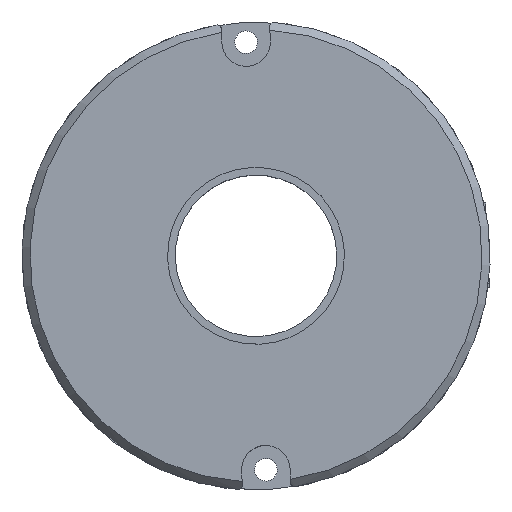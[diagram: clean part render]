
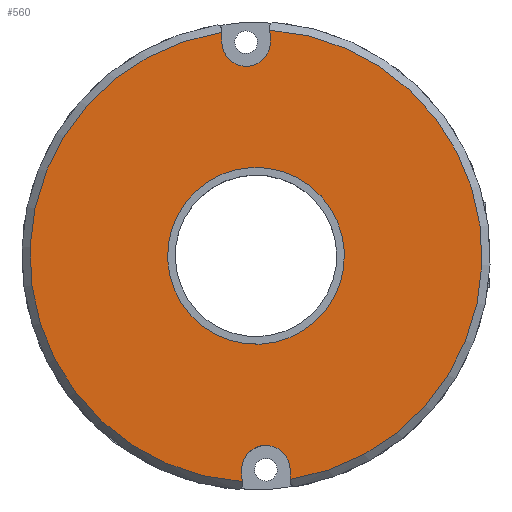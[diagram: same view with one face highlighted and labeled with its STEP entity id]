
A CAD part, top view. The second image highlights one B-rep face of the part: STEP entity #560.
In plain terms, the highlighted planar face has unit normal (0, 0, 1) as drawn and (0, 0, -1) by its records, which use the part's own axes.
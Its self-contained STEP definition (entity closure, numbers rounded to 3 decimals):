
#560=ADVANCED_FACE('',(#3530,#3532),#3534,.T.);
#3530=FACE_BOUND('',#3531,.T.);
#3531=EDGE_LOOP('',(#5911,#5912,#5913,#5914,#5915,#5916,#5917,#5918));
#3532=FACE_BOUND('',#3533,.T.);
#3533=EDGE_LOOP('',(#5919));
#3534=PLANE('',#3535);
#3535=AXIS2_PLACEMENT_3D('',#3536,#3537,#3538);
#3536=CARTESIAN_POINT('',(28.284,-3.5,-3.9));
#3537=DIRECTION('',(0.,0.,-1.));
#3538=DIRECTION('',(1.,0.,0.));
#5911=ORIENTED_EDGE('',*,*,#7669,.T.);
#5912=ORIENTED_EDGE('',*,*,#7617,.T.);
#5913=ORIENTED_EDGE('',*,*,#7670,.T.);
#5914=ORIENTED_EDGE('',*,*,#7671,.T.);
#5915=ORIENTED_EDGE('',*,*,#7672,.T.);
#5916=ORIENTED_EDGE('',*,*,#7673,.T.);
#5917=ORIENTED_EDGE('',*,*,#7626,.T.);
#5918=ORIENTED_EDGE('',*,*,#7632,.T.);
#5919=ORIENTED_EDGE('',*,*,#7649,.F.);
#7617=EDGE_CURVE('',#8512,#8510,#8513,.T.);
#7626=EDGE_CURVE('',#8528,#8529,#8530,.T.);
#7632=EDGE_CURVE('',#8529,#8538,#8541,.T.);
#7649=EDGE_CURVE('',#8571,#8571,#8572,.T.);
#7669=EDGE_CURVE('',#8538,#8512,#8604,.T.);
#7670=EDGE_CURVE('',#8510,#8605,#8606,.T.);
#7671=EDGE_CURVE('',#8605,#8607,#8608,.T.);
#7672=EDGE_CURVE('',#8607,#8609,#8610,.T.);
#7673=EDGE_CURVE('',#8609,#8528,#8611,.T.);
#8510=VERTEX_POINT('',#10056);
#8512=VERTEX_POINT('',#10063);
#8513=CIRCLE('',#10064,28.);
#8528=VERTEX_POINT('',#10151);
#8529=VERTEX_POINT('',#10152);
#8530=LINE('',#10153,#10154);
#8538=VERTEX_POINT('',#10174);
#8541=CIRCLE('',#10179,3.);
#8571=VERTEX_POINT('',#10256);
#8572=CIRCLE('',#10257,10.95);
#8604=LINE('',#10338,#10339);
#8605=VERTEX_POINT('',#10341);
#8606=LINE('',#10342,#10343);
#8607=VERTEX_POINT('',#10345);
#8608=CIRCLE('',#10346,3.);
#8609=VERTEX_POINT('',#10350);
#8610=LINE('',#10351,#10352);
#8611=CIRCLE('',#10354,28.);
#10056=CARTESIAN_POINT('',(27.839,3.,-3.9));
#10063=CARTESIAN_POINT('',(-27.839,3.,-3.9));
#10064=AXIS2_PLACEMENT_3D('',#10065,#10066,#10067);
#10065=CARTESIAN_POINT('',(0.,0.,-3.9));
#10066=DIRECTION('',(0.,0.,-1.));
#10067=DIRECTION('',(-0.994,0.107,0.));
#10151=CARTESIAN_POINT('',(-27.839,-3.,-3.9));
#10152=CARTESIAN_POINT('',(-26.5,-3.,-3.9));
#10153=CARTESIAN_POINT('',(-27.839,-3.,-3.9));
#10154=VECTOR('',#10155,1.);
#10155=DIRECTION('',(1.,0.,0.));
#10174=CARTESIAN_POINT('',(-26.5,3.,-3.9));
#10179=AXIS2_PLACEMENT_3D('',#10180,#10181,#10182);
#10180=CARTESIAN_POINT('',(-26.5,0.,-3.9));
#10181=DIRECTION('',(0.,0.,1.));
#10182=DIRECTION('',(0.,-1.,0.));
#10256=CARTESIAN_POINT('',(10.95,0.,-3.9));
#10257=AXIS2_PLACEMENT_3D('',#10258,#10259,#10260);
#10258=CARTESIAN_POINT('',(0.,0.,-3.9));
#10259=DIRECTION('',(0.,0.,-1.));
#10260=DIRECTION('',(1.,0.,0.));
#10338=CARTESIAN_POINT('',(-26.5,3.,-3.9));
#10339=VECTOR('',#10340,1.);
#10340=DIRECTION('',(-1.,0.,0.));
#10341=CARTESIAN_POINT('',(26.5,3.,-3.9));
#10342=CARTESIAN_POINT('',(27.839,3.,-3.9));
#10343=VECTOR('',#10344,1.);
#10344=DIRECTION('',(-1.,0.,0.));
#10345=CARTESIAN_POINT('',(26.5,-3.,-3.9));
#10346=AXIS2_PLACEMENT_3D('',#10347,#10348,#10349);
#10347=CARTESIAN_POINT('',(26.5,0.,-3.9));
#10348=DIRECTION('',(0.,0.,1.));
#10349=DIRECTION('',(0.,1.,0.));
#10350=CARTESIAN_POINT('',(27.839,-3.,-3.9));
#10351=CARTESIAN_POINT('',(26.5,-3.,-3.9));
#10352=VECTOR('',#10353,1.);
#10353=DIRECTION('',(1.,0.,0.));
#10354=AXIS2_PLACEMENT_3D('',#10355,#10356,#10357);
#10355=CARTESIAN_POINT('',(0.,0.,-3.9));
#10356=DIRECTION('',(0.,0.,-1.));
#10357=DIRECTION('',(0.994,-0.107,0.));
